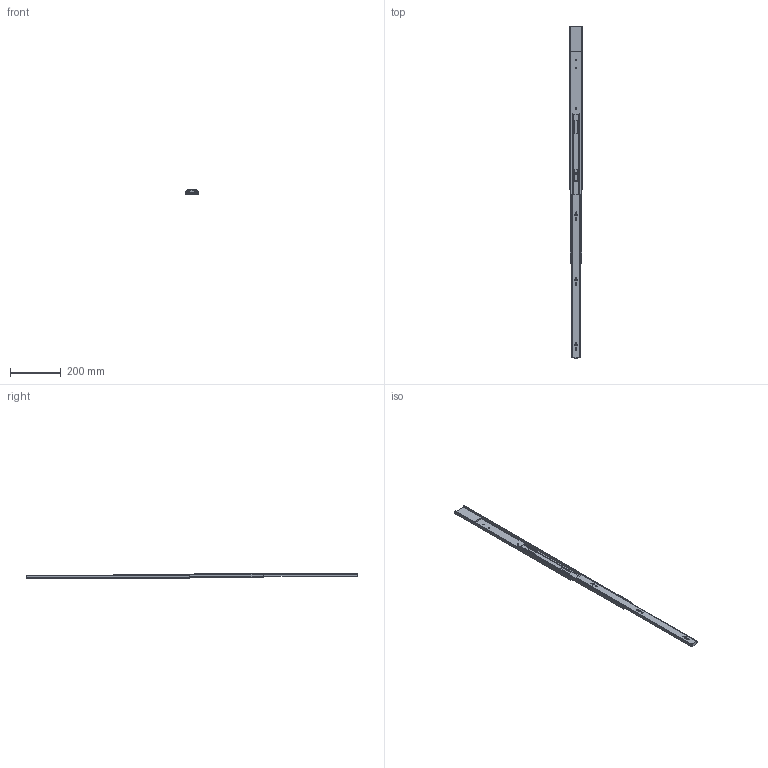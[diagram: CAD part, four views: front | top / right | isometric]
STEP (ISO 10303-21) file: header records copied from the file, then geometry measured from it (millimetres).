
FILE_DESCRIPTION((''),'2;1');
FILE_NAME('78A01_650_OPEN_ASM','2020-09-01T15:19:35',('T170334'),(''),'CREO PARAMETRIC BY PTC INC, 2018260','CREO PARAMETRIC BY PTC INC, 2018260','');
FILE_SCHEMA(('CONFIG_CONTROL_DESIGN'));
Length unit declared in the file: millimetre
Products named in the file (5): OUT_650; MID_650; IN_650; MECHANISM_O; 78A01_650_OPEN_ASM
Assembly tree (4 placements, depth 2):
  78A01_650_OPEN_ASM
    OUT_650
    MID_650
    IN_650
    MECHANISM_O
Bounding box: 53.32 x 1307.4 x 18.84 mm (x, y, z)
Volume: 242761.7 mm3; surface area: 252111.2 mm2
Topology: 4 solids, 4 shells, 170 faces, 482 edges, 320 vertices
Faces by surface type: cylinder 86, plane 84
Entity records: 5787 total; most frequent: CARTESIAN_POINT 1021, DIRECTION 996, ORIENTED_EDGE 964, EDGE_CURVE 482, AXIS2_PLACEMENT_3D 343, VERTEX_POINT 320, VECTOR 310, LINE 310
